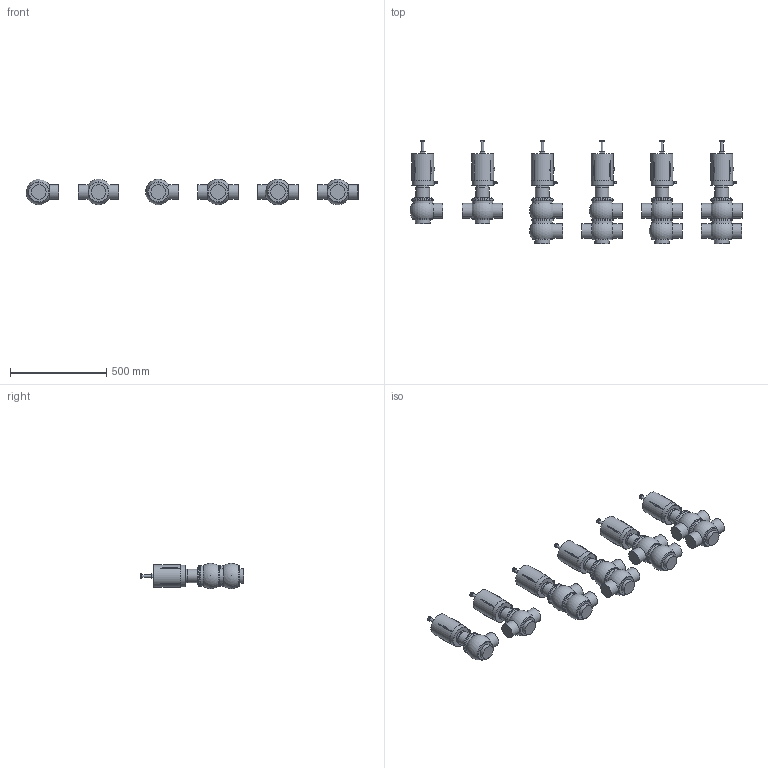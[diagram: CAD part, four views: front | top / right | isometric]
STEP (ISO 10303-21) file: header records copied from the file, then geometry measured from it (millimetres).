
FILE_DESCRIPTION((''),'2;1');
FILE_NAME('\\BV-SRV1\Ufficio tecnico\cad3d\PNEUMATICA\Ing1-1\pne bbzp e derivate\BBZS5\BBZS5-DN761-CIL108-SAL.iam.step','2009-10-19T10:18:19',(''),(''),'Autodesk Inventor 2010','Autodesk Inventor 2010','');
FILE_SCHEMA(('AUTOMOTIVE_DESIGN { 1 0 10303 214 1 1 1 1 }'));
Length unit declared in the file: millimetre
Products named in the file (7): BBZS5-DN761-CIL108-SAL; Assemblaggio-DN080; COR-INF-L-SAL-DN76; COR-INF-T-SAL-DN76; COR-SUP-L-SAL-DN76; COR-SUP-T-SAL-DN76; cil 108 tarabile
Assembly tree (22 placements, depth 2):
  BBZS5-DN761-CIL108-SAL
    Assemblaggio-DN080  x6
    COR-INF-L-SAL-DN76  x3
    COR-INF-T-SAL-DN76  x3
    COR-SUP-L-SAL-DN76  x2
    COR-SUP-T-SAL-DN76  x2
    cil 108 tarabile  x6
Bounding box: 1721 x 537.2 x 132 mm (x, y, z)
Volume: 27644161.7 mm3; surface area: 1564448.2 mm2
Topology: 28 solids, 28 shells, 1266 faces, 3002 edges, 1783 vertices
Faces by surface type: plane 473, cylinder 283, cone 260, bspline 120, sphere 82, torus 48
Full cylindrical faces by diameter (mm): 4.9 x6, 6 x12, 7 x6, 8.3 x6, 10 x6, 11 x6, 11.5 x6, 14 x6, 19.37 x6, 69 x6, 71 x6, 76.1 x21, 105 x26, 113 x20, 113.5 x6, 114.5 x6
Entity records: 7198 total; most frequent: CARTESIAN_POINT 1925, DIRECTION 1040, ORIENTED_EDGE 894, EDGE_CURVE 447, AXIS2_PLACEMENT_3D 442, EDGE_LOOP 343, VERTEX_POINT 308, FACE_OUTER_BOUND 240
